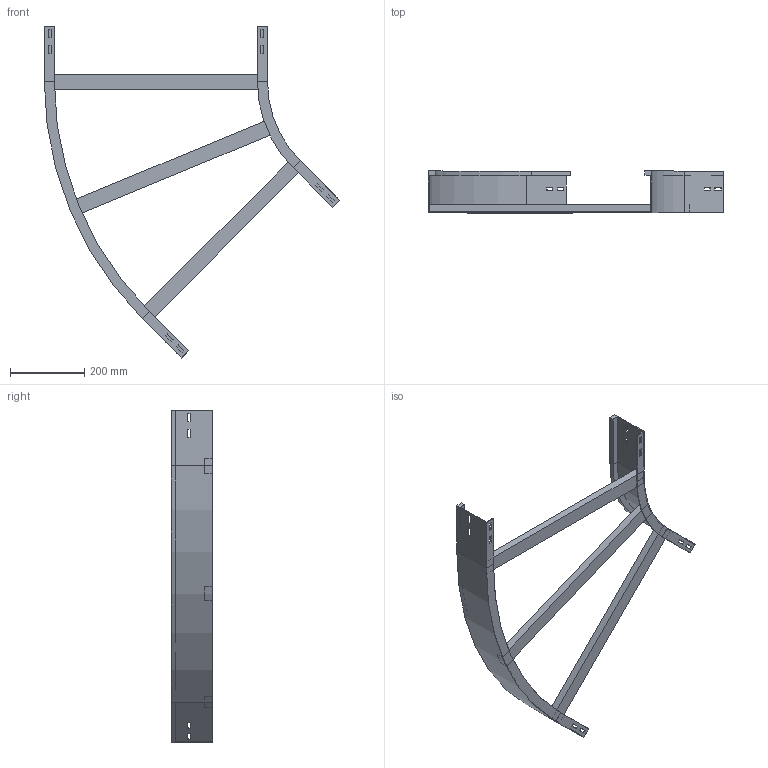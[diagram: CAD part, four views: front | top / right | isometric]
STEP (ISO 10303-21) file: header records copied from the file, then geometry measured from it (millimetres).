
FILE_DESCRIPTION (( 'STEP AP214' ), '1' );
FILE_NAME ('A2_11B3J600.step', '2025-02-21T15:14:26', ( '' ), ( '' ), 'SwSTEP 2.0', 'SolidWorks 2023', '' );
FILE_SCHEMA (( 'AUTOMOTIVE_DESIGN' ));
Length unit declared in the file: millimetre
Products named in the file (4): A2_LONGH.ESTERNO 45°_H112.5_R300+600; A2_LONGH.INTERNO 45°_H112.5_R300; TRAVERSINO_600; A2_11B3J600
Assembly tree (5 placements, depth 2):
  A2_11B3J600
    A2_LONGH.INTERNO 45°_H112.5_R300
    A2_LONGH.ESTERNO 45°_H112.5_R300+600
    TRAVERSINO_600  x3
Bounding box: 793.93 x 112.5 x 892.46 mm (x, y, z)
Volume: 2163689.1 mm3; surface area: 699714.6 mm2
Topology: 5 solids, 5 shells, 134 faces, 340 edges, 216 vertices
Faces by surface type: plane 126, cylinder 8
Entity records: 3821 total; most frequent: CARTESIAN_POINT 646, ORIENTED_EDGE 632, DIRECTION 592, EDGE_CURVE 316, LINE 300, VECTOR 300, VERTEX_POINT 200, EDGE_LOOP 154
